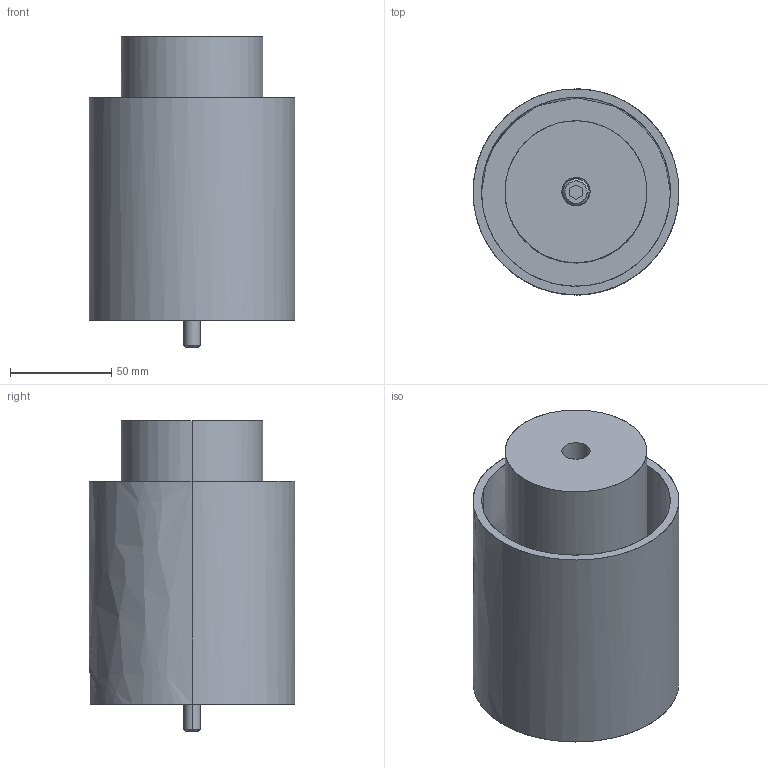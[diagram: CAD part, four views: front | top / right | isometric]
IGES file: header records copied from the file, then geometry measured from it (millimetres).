
Global section: file name: E:\UnigraphicsGraphicData\MISUMI_PRESS-PARTS\IGES\3d_phbtn70-140-110-r_07076_r00.igs; native system: NX V5.0; preprocessor: UGS NX IGES V5.0; author: MISUMI; date: 20110105.162249; units: millimetre
Bounding box: 101.6 x 101.6 x 153.4 mm (x, y, z)
Surface area: 130919.8 mm2 (no closed solid volume)
Topology: 0 solids, 0 shells, 50 faces, 396 edges, 396 vertices
Faces by surface type: bspline 50
